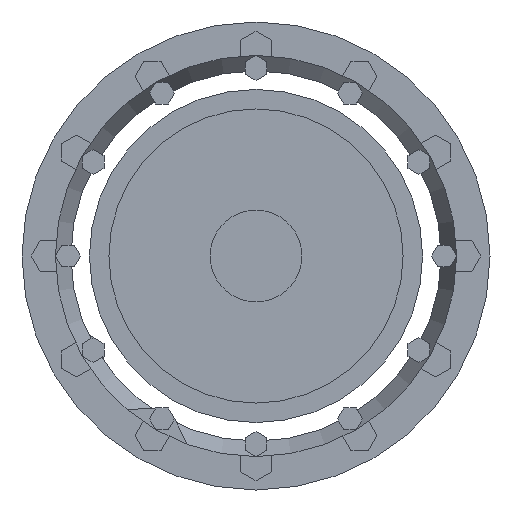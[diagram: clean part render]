
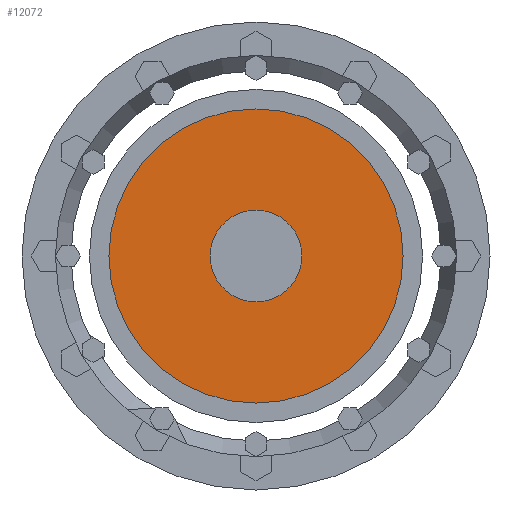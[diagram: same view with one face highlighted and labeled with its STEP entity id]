
A CAD part, left-side view. The second image highlights one B-rep face of the part: STEP entity #12072.
In plain terms, the highlighted planar face has unit normal (-1, 0, 0).
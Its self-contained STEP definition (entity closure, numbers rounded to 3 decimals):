
#11770=CARTESIAN_POINT('',(-144.,0.,0.));
#11771=DIRECTION('',(1.,0.,0.));
#11772=DIRECTION('',(0.,1.,0.));
#11773=AXIS2_PLACEMENT_3D('',#11770,#11771,#11772);
#11849=CARTESIAN_POINT('',(-144.,0.,0.));
#11850=DIRECTION('',(-1.,0.,0.));
#11851=DIRECTION('',(0.,1.,0.));
#11852=AXIS2_PLACEMENT_3D('',#11849,#11850,#11851);
#11854=CARTESIAN_POINT('',(-144.,0.,0.));
#11855=DIRECTION('',(1.,0.,0.));
#11856=DIRECTION('',(0.,1.,0.));
#11857=AXIS2_PLACEMENT_3D('',#11854,#11855,#11856);
#11868=CARTESIAN_POINT('',(-144.,0.,0.));
#11869=DIRECTION('',(-1.,0.,0.));
#11870=DIRECTION('',(0.,1.,0.));
#11871=AXIS2_PLACEMENT_3D('',#11868,#11869,#11870);
#11877=CARTESIAN_POINT('',(-144.,27.5,0.));
#11878=CARTESIAN_POINT('',(-144.,-27.5,0.));
#11879=VERTEX_POINT('',#11877);
#11880=VERTEX_POINT('',#11878);
#11881=CARTESIAN_POINT('',(-144.,88.,0.));
#11882=CARTESIAN_POINT('',(-144.,-88.,0.));
#11883=VERTEX_POINT('',#11881);
#11884=VERTEX_POINT('',#11882);
#12058=CARTESIAN_POINT('',(-144.,0.,0.));
#12059=DIRECTION('',(1.,0.,0.));
#12060=DIRECTION('',(0.,-1.,0.));
#12061=AXIS2_PLACEMENT_3D('',#12058,#12059,#12060);
#12062=PLANE('',#12061);
#12063=ORIENTED_EDGE('',*,*,#12040,.F.);
#12064=ORIENTED_EDGE('',*,*,#12053,.T.);
#12065=EDGE_LOOP('',(#12063,#12064));
#12066=FACE_OUTER_BOUND('',#12065,.F.);
#12067=ORIENTED_EDGE('',*,*,#11918,.F.);
#12069=ORIENTED_EDGE('',*,*,#12068,.T.);
#12070=EDGE_LOOP('',(#12067,#12069));
#12071=FACE_BOUND('',#12070,.F.);
#12072=ADVANCED_FACE('',(#12066,#12071),#12062,.F.);
#11774=CIRCLE('',#11773,27.5);
#11853=CIRCLE('',#11852,88.);
#11858=CIRCLE('',#11857,88.);
#11872=CIRCLE('',#11871,27.5);
#11918=EDGE_CURVE('',#11879,#11880,#11774,.T.);
#12040=EDGE_CURVE('',#11883,#11884,#11853,.T.);
#12053=EDGE_CURVE('',#11883,#11884,#11858,.T.);
#12068=EDGE_CURVE('',#11879,#11880,#11872,.T.);
